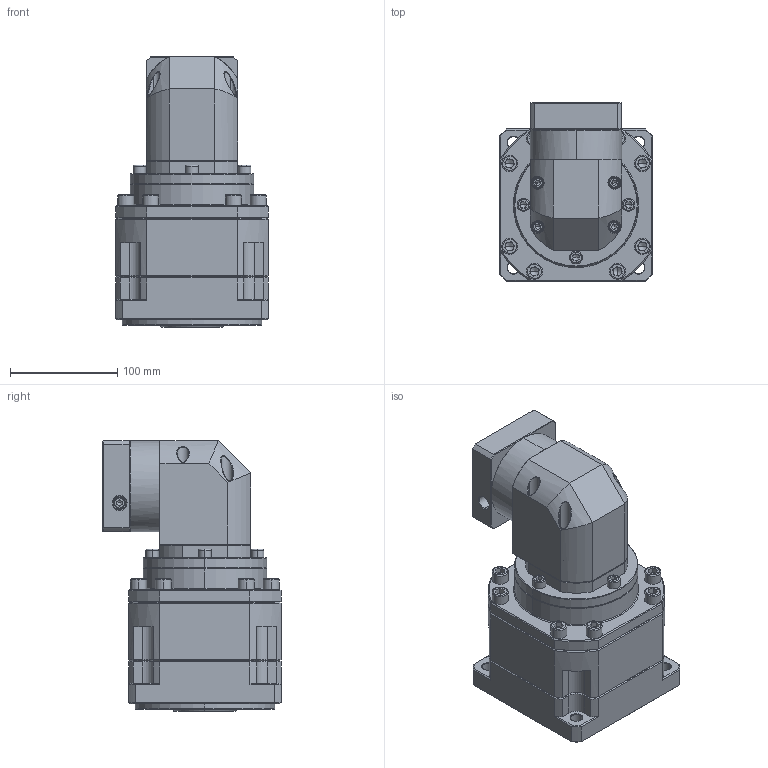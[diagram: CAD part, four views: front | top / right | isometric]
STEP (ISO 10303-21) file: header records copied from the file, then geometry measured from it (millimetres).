
FILE_DESCRIPTION (( 'STEP AP214' ), '1' );
FILE_NAME ('ZBR142A-K35-L3-P2-16-80-100-M6.step', '2023-09-02T08:41:22', ( '' ), ( '' ), 'SwSTEP 2.0', 'SolidWorks 2016', '' );
FILE_SCHEMA (( 'AUTOMOTIVE_DESIGN' ));
Length unit declared in the file: millimetre
Products named in the file (1): ZBR142A-K35-L3-P2-16-80-100-M6
Bounding box: 142 x 166.1 x 252.2 mm (x, y, z)
Volume: 3191904.1 mm3; surface area: 238706.8 mm2
Topology: 6 solids, 6 shells, 2668 faces, 6859 edges, 4320 vertices
Faces by surface type: plane 1318, cylinder 488, bspline 458, cone 390, torus 14
Entity records: 136706 total; most frequent: CARTESIAN_POINT 46217, ORIENTED_EDGE 13582, DIRECTION 11119, EDGE_CURVE 6791, LINE 4393, VECTOR 4393, VERTEX_POINT 4320, AXIS2_PLACEMENT_3D 3363
